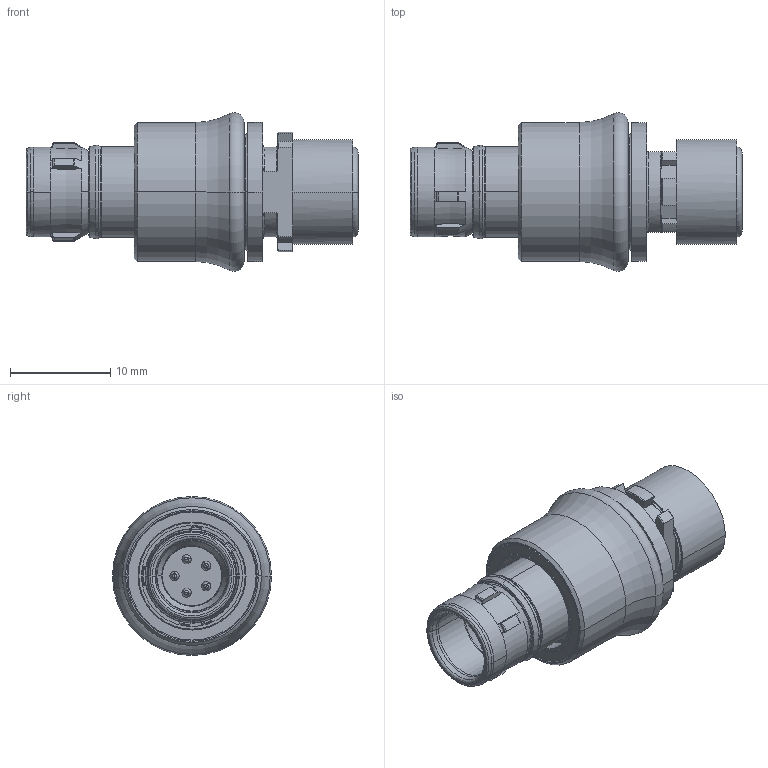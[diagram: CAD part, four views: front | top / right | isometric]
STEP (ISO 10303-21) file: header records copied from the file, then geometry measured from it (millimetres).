
FILE_DESCRIPTION((''),'2;1');
FILE_NAME('00050910--','2020-10-27T12:01:45',('EUnterhaslberger'),(''),'CREO PARAMETRIC BY PTC INC, 2018300','CREO PARAMETRIC BY PTC INC, 2018300','');
FILE_SCHEMA(('AP242_MANAGED_MODEL_BASED_3D_ENGINEERING_MIM_LF { 1 0 10303 442 1 1 4 }'));
Length unit declared in the file: millimetre
Products named in the file (1): 00050910--
Bounding box: 33.2 x 15.9 x 15.9 mm (x, y, z)
Volume: 2411.6 mm3; surface area: 4685.4 mm2
Topology: 1 solids, 1 shells, 616 faces, 1738 edges, 1127 vertices
Faces by surface type: cylinder 194, plane 169, torus 131, cone 102, bspline 10, sphere 10
Entity records: 25915 total; most frequent: CARTESIAN_POINT 5281, DIRECTION 3558, ORIENTED_EDGE 3436, EDGE_CURVE 1718, AXIS2_PLACEMENT_3D 1519, VERTEX_POINT 1127, CIRCLE 913, EDGE_LOOP 669
